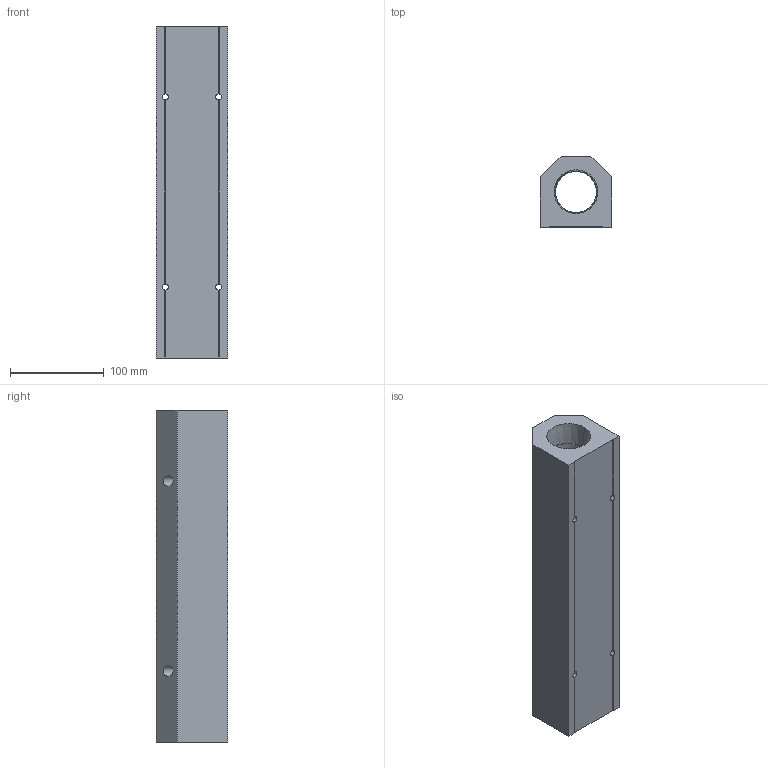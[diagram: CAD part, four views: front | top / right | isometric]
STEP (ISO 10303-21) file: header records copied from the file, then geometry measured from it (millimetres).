
FILE_DESCRIPTION (( 'STEP AP214' ), '1' );
FILE_NAME ('ALM6C-N6N24-355R.step', '2022-02-07T07:58:11', ( '' ), ( '' ), 'SwSTEP 2.0', 'SolidWorks 2020', '' );
FILE_SCHEMA (( 'AUTOMOTIVE_DESIGN' ));
Length unit declared in the file: millimetre
Products named in the file (1): ALM6C-N6N24-355R
Bounding box: 76.2 x 76.2 x 355 mm (x, y, z)
Volume: 1299491.3 mm3; surface area: 163851.3 mm2
Topology: 1 solids, 1 shells, 294 faces, 781 edges, 518 vertices
Faces by surface type: plane 190, bspline 70, cylinder 18, cone 16
Entity records: 16707 total; most frequent: CARTESIAN_POINT 7088, ORIENTED_EDGE 1562, DIRECTION 1111, EDGE_CURVE 781, LINE 565, VECTOR 565, VERTEX_POINT 518, EDGE_LOOP 345
